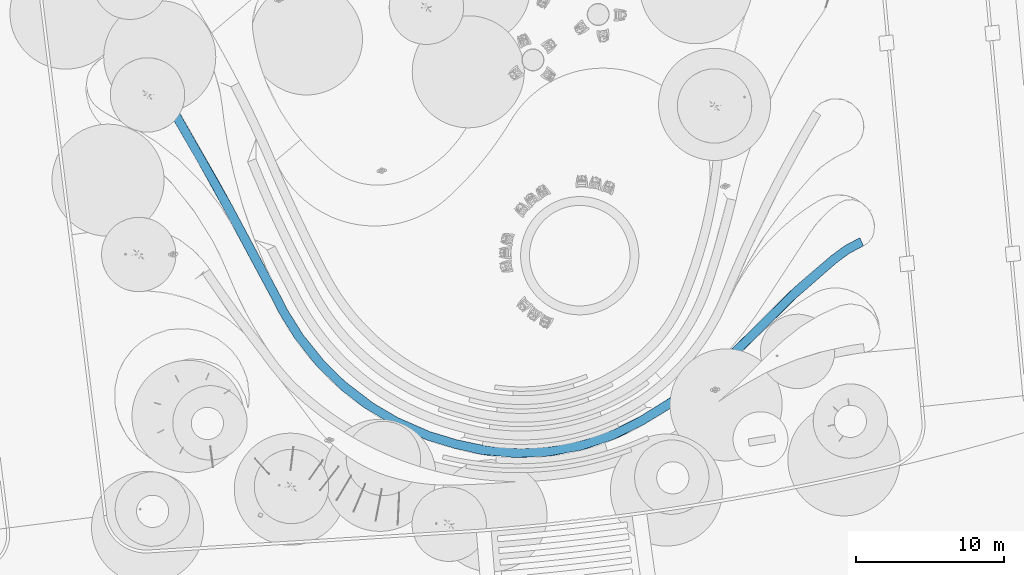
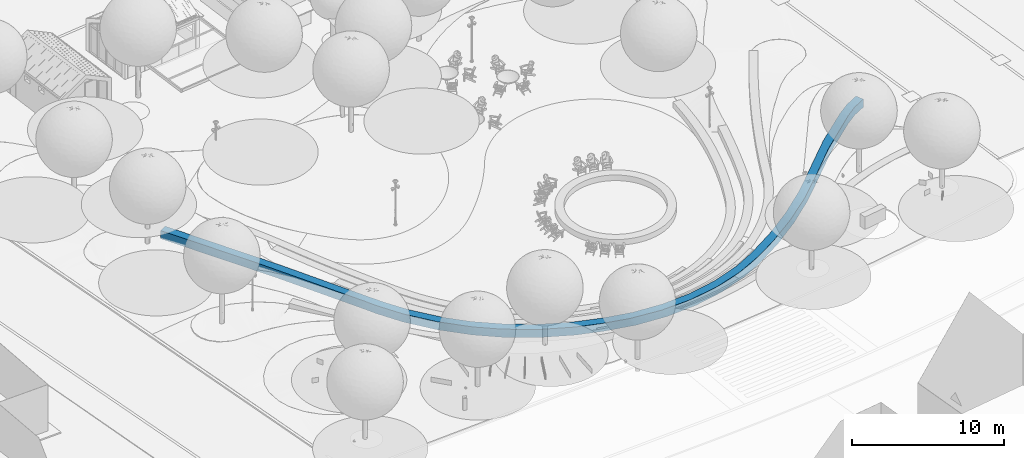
# One storey, part 43 of 75: 1 slab.
"""IFC2X3 building model written with IfcOpenShell, lengths in metres."""

from ifc_helpers import new_model, entity, si_unit, converted_unit, derived_unit, direction, origin, place, context, subcontext, project, spatial, faceted_brep, material, layer, layer_set, type_object, element, save


model = new_model("IFC2X3")

# Units and contexts
model_context = context("Model", 3, precision=1e-05, world=origin(), true_north=direction((6.123031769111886e-17, 1.0)))
body_context = subcontext(model_context, "Body", "Model", "MODEL_VIEW")
ifc_project = project(units=[si_unit("LENGTHUNIT", "METRE"), si_unit("AREAUNIT", "SQUARE_METRE"), si_unit("VOLUMEUNIT", "CUBIC_METRE"), converted_unit("PLANEANGLEUNIT", "DEGREE", entity("IfcRatioMeasure", 0.017453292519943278), si_unit("PLANEANGLEUNIT", "RADIAN"), dimensions=[0, 0, 0, 0, 0, 0, 0]), si_unit("MASSUNIT", "GRAM", prefix="KILO"), derived_unit("MASSDENSITYUNIT", [(si_unit("MASSUNIT", "GRAM", prefix="KILO"), 1), (si_unit("LENGTHUNIT", "METRE"), -3)]), derived_unit("IONCONCENTRATIONUNIT", [(si_unit("MASSUNIT", "GRAM", prefix="KILO"), 1), (si_unit("LENGTHUNIT", "METRE"), -3)]), derived_unit("MOMENTOFINERTIAUNIT", [(si_unit("LENGTHUNIT", "METRE"), 4)]), si_unit("TIMEUNIT", "SECOND"), si_unit("FREQUENCYUNIT", "HERTZ"), si_unit("THERMODYNAMICTEMPERATUREUNIT", "DEGREE_CELSIUS"), derived_unit("THERMALTRANSMITTANCEUNIT", [(si_unit("MASSUNIT", "GRAM", prefix="KILO"), 1), (si_unit("THERMODYNAMICTEMPERATUREUNIT", "KELVIN"), -1), (si_unit("TIMEUNIT", "SECOND"), -3)]), derived_unit("THERMALCONDUCTANCEUNIT", [(si_unit("MASSUNIT", "GRAM", prefix="KILO"), 1), (si_unit("THERMODYNAMICTEMPERATUREUNIT", "KELVIN"), -1), (si_unit("TIMEUNIT", "SECOND"), -3), (si_unit("LENGTHUNIT", "METRE"), 1)]), derived_unit("VOLUMETRICFLOWRATEUNIT", [(si_unit("LENGTHUNIT", "METRE"), 3), (si_unit("TIMEUNIT", "SECOND"), -1)]), derived_unit("MASSFLOWRATEUNIT", [(si_unit("MASSUNIT", "GRAM", prefix="KILO"), 1), (si_unit("TIMEUNIT", "SECOND"), -1)]), derived_unit("ROTATIONALFREQUENCYUNIT", [(si_unit("TIMEUNIT", "SECOND"), -1)]), si_unit("ELECTRICCURRENTUNIT", "AMPERE"), si_unit("ELECTRICVOLTAGEUNIT", "VOLT"), si_unit("POWERUNIT", "WATT"), si_unit("FORCEUNIT", "NEWTON", prefix="KILO"), si_unit("ILLUMINANCEUNIT", "LUX"), si_unit("LUMINOUSFLUXUNIT", "LUMEN"), si_unit("LUMINOUSINTENSITYUNIT", "CANDELA"), derived_unit("USERDEFINED", [(si_unit("MASSUNIT", "GRAM", prefix="KILO"), -1), (si_unit("LENGTHUNIT", "METRE"), -2), (si_unit("TIMEUNIT", "SECOND"), 3), (si_unit("LUMINOUSFLUXUNIT", "LUMEN"), 1)]), derived_unit("USERDEFINED", [(si_unit("MASSUNIT", "GRAM", prefix="KILO"), 1), (si_unit("TIMEUNIT", "SECOND"), -3), (si_unit("LENGTHUNIT", "METRE"), 3), (si_unit("ELECTRICCURRENTUNIT", "AMPERE"), -2)]), derived_unit("SOUNDPOWERUNIT", [(si_unit("MASSUNIT", "GRAM", prefix="KILO"), 1), (si_unit("TIMEUNIT", "SECOND"), -3), (si_unit("LENGTHUNIT", "METRE"), 2)]), derived_unit("SOUNDPRESSUREUNIT", [(si_unit("MASSUNIT", "GRAM", prefix="KILO"), 1), (si_unit("LENGTHUNIT", "METRE"), -1), (si_unit("TIMEUNIT", "SECOND"), -2)]), derived_unit("LINEARVELOCITYUNIT", [(si_unit("LENGTHUNIT", "METRE"), 1), (si_unit("TIMEUNIT", "SECOND"), -1)]), si_unit("PRESSUREUNIT", "PASCAL"), derived_unit("USERDEFINED", [(si_unit("MASSUNIT", "GRAM", prefix="KILO"), 1), (si_unit("LENGTHUNIT", "METRE"), -2), (si_unit("TIMEUNIT", "SECOND"), -2)]), derived_unit("LINEARFORCEUNIT", [(si_unit("MASSUNIT", "GRAM", prefix="KILO"), 1), (si_unit("TIMEUNIT", "SECOND"), -2)]), derived_unit("PLANARFORCEUNIT", [(si_unit("MASSUNIT", "GRAM", prefix="KILO"), 1), (si_unit("LENGTHUNIT", "METRE"), -1), (si_unit("TIMEUNIT", "SECOND"), -2)]), derived_unit("SPECIFICHEATCAPACITYUNIT", [(si_unit("THERMODYNAMICTEMPERATUREUNIT", "KELVIN"), -1), (si_unit("LENGTHUNIT", "METRE"), 2), (si_unit("TIMEUNIT", "SECOND"), -2)]), derived_unit("HEATINGVALUEUNIT", [(si_unit("LENGTHUNIT", "METRE"), 2), (si_unit("TIMEUNIT", "SECOND"), -2)]), derived_unit("VAPORPERMEABILITYUNIT", [(si_unit("LENGTHUNIT", "METRE"), -1), (si_unit("TIMEUNIT", "SECOND"), 1)]), derived_unit("DYNAMICVISCOSITYUNIT", [(si_unit("MASSUNIT", "GRAM", prefix="KILO"), 1), (si_unit("TIMEUNIT", "SECOND"), -1), (si_unit("LENGTHUNIT", "METRE"), -1)]), derived_unit("THERMALEXPANSIONCOEFFICIENTUNIT", [(si_unit("THERMODYNAMICTEMPERATUREUNIT", "KELVIN"), -1)]), derived_unit("MODULUSOFELASTICITYUNIT", [(si_unit("MASSUNIT", "GRAM", prefix="KILO"), 1), (si_unit("LENGTHUNIT", "METRE"), -1), (si_unit("TIMEUNIT", "SECOND"), -2)]), derived_unit("ISOTHERMALMOISTURECAPACITYUNIT", [(si_unit("LENGTHUNIT", "METRE"), 3), (si_unit("MASSUNIT", "GRAM", prefix="KILO"), -1)]), derived_unit("MOISTUREDIFFUSIVITYUNIT", [(si_unit("TIMEUNIT", "SECOND"), -1), (si_unit("LENGTHUNIT", "METRE"), 2)])], contexts=[model_context])

# Site, building, storey
site_placement = place(None, origin())
site = spatial("IfcSite", under=ifc_project, at=site_placement, Name="Default", CompositionType="ELEMENT")
building_placement = place(site_placement, origin())
building = spatial("IfcBuilding", under=site, at=building_placement, Name="Projeto", CompositionType="ELEMENT")
storey_placement = place(building_placement, origin())
storey = spatial("IfcBuildingStorey", under=building, at=storey_placement, Name="Nível 1", CompositionType="ELEMENT", Elevation=0.0)

# Slab
ifc_material = material(Name="cacao")
ifc_layer = layer(ifc_material, 0.65)
ifc_layer_set = layer_set([ifc_layer], Name="Piso:Banco de concreto")
slab_type = type_object("IfcSlabType", Name="Piso:Banco de concreto", PredefinedType="FLOOR", material=ifc_layer_set)
slab_placement = place(storey_placement, origin())
element("IfcSlab", 1, at=slab_placement, inside=storey, type_object=slab_type, material=ifc_material, Name="Piso:Banco de concreto", ObjectType="Piso:Banco de concreto", PredefinedType="FLOOR", context=body_context, shape_type="Brep", body=[
    faceted_brep([(-19.109149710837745, 10.474046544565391, -0.44999999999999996), (-17.376874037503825, 7.448494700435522, -1.1045364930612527), (-18.346484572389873, 9.141990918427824, -1.101997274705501), (-10.997355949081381, -4.275316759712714, -0.7402978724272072), (-13.161817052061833, -0.179499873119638, -0.46587772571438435), (-12.244038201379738, -1.9016146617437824, -0.4684169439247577), (-15.644598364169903, 4.422942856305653, -1.1090729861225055), (-16.955322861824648, 6.685612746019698, -0.4556706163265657), (-15.878413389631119, 4.791393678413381, -0.4585059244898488), (-11.522138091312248, -3.256178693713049, -1.120414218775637), (-12.552754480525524, -1.3363990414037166, -1.1175789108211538), (-13.583368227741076, 0.583382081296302, -1.1147436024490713), (-14.80149601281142, 2.897178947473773, -0.46134123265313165), (-13.98166048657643, 1.3588373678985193, -0.463609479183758), (-10.9973559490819, -4.275316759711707, -1.1), (-11.259239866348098, -3.765483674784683, -1.1102071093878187), (-18.032237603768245, 8.579828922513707, -0.4528353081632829), (-11.390688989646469, -3.5108311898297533, -1.1153106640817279), (-11.522138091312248, -3.256178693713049, -0.47041421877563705), (-11.259239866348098, -3.765483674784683, -0.4602071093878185), (-14.613987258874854, 2.503160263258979, -1.1119082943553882), (-16.51074016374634, 5.935716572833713, -1.106804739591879), (-11.093931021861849, -4.087305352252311, -0.45376408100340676), (-9.983372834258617, -5.891673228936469, -1.1), (-10.490364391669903, -5.083494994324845, -1.1), (-10.997355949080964, -4.275316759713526, -0.4499999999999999), (-10.490364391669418, -5.083494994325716, -0.4499999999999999), (-9.983372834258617, -5.891673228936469, -0.4499999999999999), (-9.233864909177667, -6.81885216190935, -1.1), (-9.233864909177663, -6.818852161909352, -0.4499999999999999), (-8.484356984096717, -7.7460310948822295, -0.4499999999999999), (-8.484356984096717, -7.7460310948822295, -1.1), (-7.1164049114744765, -9.07624803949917, -1.1), (-7.800380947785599, -8.411139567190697, -1.1), (-7.800380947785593, -8.411139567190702, -0.4499999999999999), (-7.1164049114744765, -9.07624803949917, -0.4499999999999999), (-6.168628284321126, -9.799533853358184, -0.4499999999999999), (-5.220851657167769, -10.522819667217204, -0.4499999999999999), (-5.220851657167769, -10.522819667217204, -1.1), (-6.168628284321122, -9.799533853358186, -1.1), (-3.5767708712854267, -11.491204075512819, -1.1), (-4.398811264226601, -11.00701187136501, -1.1), (-4.398811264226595, -11.007011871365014, -0.4499999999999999), (-3.5767708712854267, -11.491204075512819, -0.4499999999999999), (0.434114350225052, -12.999123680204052, -0.4499999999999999), (0.4341143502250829, -12.999123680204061, -1.1), (-0.4792140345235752, -12.723399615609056, -1.1), (-1.3925424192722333, -12.447675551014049, -1.1), (-1.3925424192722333, -12.447675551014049, -0.4499999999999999), (-0.6853862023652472, -12.661158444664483, -0.4499999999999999), (-2.4846566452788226, -11.969439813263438, -0.4499999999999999), (-2.4846566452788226, -11.969439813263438, -1.1), (3.234810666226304, -13.491109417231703, -1.1), (2.1445110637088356, -13.38456813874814, -1.1), (2.577944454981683, -13.451240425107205, -0.4499999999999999), (3.670769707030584, -13.527642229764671, -0.4499999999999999), (4.325110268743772, -13.597650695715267, -1.1), (4.763594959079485, -13.604044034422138, -0.4499999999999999), (1.289312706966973, -13.1918459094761, -1.1), (1.5060294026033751, -13.22518205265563, -0.4499999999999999), (11.736529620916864, -11.95558148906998, -1.1), (10.752386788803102, -12.436795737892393, -1.1), (11.156375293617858, -12.266199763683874, -0.4499999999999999), (5.4196984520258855, -13.553142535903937, -1.1), (5.856537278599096, -13.529335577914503, -0.4499999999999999), (6.949479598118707, -13.45462712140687, -0.4499999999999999), (6.514286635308, -13.50863437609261, -1.1), (10.125191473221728, -12.636016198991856, -0.4499999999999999), (9.711386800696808, -12.778004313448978, -1.1), (7.5923367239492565, -13.313923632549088, -1.1), (8.021743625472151, -13.230229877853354, -0.4499999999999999), (12.720672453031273, -11.474367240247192, -0.4499999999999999), (12.72067245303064, -11.47436724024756, -1.1), (11.938523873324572, -11.87028350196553, -0.4499999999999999), (8.670386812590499, -13.119212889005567, -1.1), (9.094007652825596, -13.005832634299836, -0.4499999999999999), (14.917537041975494, -10.11293250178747, -0.4499999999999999), (14.37815510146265, -10.468937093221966, -1.1), (13.819104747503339, -10.793649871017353, -0.4499999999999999), (13.407650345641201, -11.057645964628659, -1.1), (15.96091515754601, -9.350507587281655, -0.4499999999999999), (17.004293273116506, -8.588082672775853, -0.4499999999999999), (16.493601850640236, -8.984146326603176, -1.1), (15.435878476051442, -9.72654170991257, -1.1), (19.422430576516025, -6.448024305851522, -1.1), (19.661946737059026, -6.231114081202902, -0.4499999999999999), (20.35508237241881, -5.553546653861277, -1.1), (20.3550823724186, -5.553546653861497, -0.4499999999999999), (17.491690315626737, -8.163324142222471, -1.1), (18.96881110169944, -6.908681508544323, -0.4499999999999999), (17.986552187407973, -7.748382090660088, -0.4499999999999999), (18.489778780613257, -7.342501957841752, -1.1), (21.50613616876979, -4.396862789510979, -1.1), (21.805024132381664, -4.119113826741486, -0.4499999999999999), (22.657189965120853, -3.2401789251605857, -1.1), (23.254965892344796, -2.6846809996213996, -0.4499999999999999), (24.193937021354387, -1.899157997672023, -1.1), (24.218023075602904, -1.8574529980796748, -0.4499999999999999), (25.730684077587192, -0.5581370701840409, -0.4499999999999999), (25.730684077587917, -0.5581370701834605, -1.1), (26.19783779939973, -0.21414766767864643, -0.4499999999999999), (26.664991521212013, 0.12984173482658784, -0.4499999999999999), (26.664991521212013, 0.12984173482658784, -1.1), (26.197837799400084, -0.2141476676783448, -1.1), (27.00298769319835, 0.30950913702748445, -0.4499999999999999), (27.689517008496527, 0.6744450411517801, -0.4499999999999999), (27.689517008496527, 0.6744450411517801, -1.1), (27.17725426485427, 0.4021433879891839, -1.1), (26.98087351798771, -0.3802943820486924, -1.1), (27.271717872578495, -0.22558132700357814, -1.1000000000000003), (27.93171458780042, 0.1255002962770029, -1.1), (27.93171458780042, 0.125500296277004, -0.4499999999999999), (27.45629405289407, -0.12739704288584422, -0.4499999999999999), (26.98087351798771, -0.3802943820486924, -0.4499999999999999), (26.547532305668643, -0.6999772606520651, -1.1), (26.54753230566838, -0.6999772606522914, -0.4499999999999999), (26.114191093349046, -1.0196601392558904, -0.4499999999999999), (26.114191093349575, -1.0196601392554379, -1.1), (23.069963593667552, -3.675632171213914, -0.4499999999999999), (23.662018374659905, -3.1254941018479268, -1.1), (24.5920773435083, -2.347646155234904, -0.4499999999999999), (24.610102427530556, -2.3113150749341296, -1.1), (22.226036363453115, -4.5461744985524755, -1.1), (21.930008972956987, -4.821243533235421, -0.4499999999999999), (20.790054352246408, -5.966854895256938, -0.4499999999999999), (20.790054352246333, -5.966854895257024, -1.1), (20.0845410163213, -6.656709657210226, -1.1), (19.840742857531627, -6.87755321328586, -0.4499999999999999), (19.379027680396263, -7.346564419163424, -1.1), (17.875477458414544, -8.623955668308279, -0.4499999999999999), (18.379194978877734, -8.20149032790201, -1.1), (18.89143136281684, -7.788251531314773, -0.4499999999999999), (17.379362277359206, -9.056416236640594, -1.1), (14.706148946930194, -10.971358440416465, -0.4499999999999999), (14.137060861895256, -11.301950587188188, -1.1), (15.255206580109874, -10.60890376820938, -1.1), (13.018915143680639, -11.994997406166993, -1.1), (13.862532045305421, -11.483177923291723, -0.4499999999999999), (13.018915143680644, -11.99499740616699, -0.4499999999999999), (16.317284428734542, -9.832660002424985, -1.1), (15.782836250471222, -10.215509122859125, -0.4499999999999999), (16.859523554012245, -9.45965980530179, -0.4499999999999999), (12.208002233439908, -12.405397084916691, -1.1), (11.99858706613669, -12.493827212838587, -0.4499999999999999), (11.397089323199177, -12.81579676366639, -1.1), (9.25899389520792, -13.582706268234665, -1.1), (9.899042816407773, -13.346483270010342, -0.4499999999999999), (8.819826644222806, -13.700309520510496, -0.4499999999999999), (10.978258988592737, -12.992657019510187, -0.4499999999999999), (10.328041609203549, -13.199251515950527, -1.1), (7.0357692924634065, -14.048404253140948, -1.1), (7.702215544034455, -13.902413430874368, -0.4499999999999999), (6.584604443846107, -14.10451734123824, -0.4499999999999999), (8.14738159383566, -13.815555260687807, -1.1), (4.315036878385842, -14.197605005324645, -0.4499999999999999), (3.6366231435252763, -14.12536422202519, -1.1), (4.769632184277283, -14.204047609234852, -1.1), (1.3736670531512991, -13.824879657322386, -0.4499999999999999), (0.2807443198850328, -13.57929215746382, -0.4499999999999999), (0.2807443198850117, -13.579292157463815, -1.1), (1.3921792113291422, -13.812986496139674, -1.1), (2.0542206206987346, -13.977804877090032, -0.4499999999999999), (2.503614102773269, -14.046680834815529, -1.1), (5.449820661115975, -14.151061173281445, -0.4499999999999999), (5.902700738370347, -14.1262259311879, -1.1), (3.184628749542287, -14.087704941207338, -0.4499999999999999), (-0.6420972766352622, -13.301298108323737, -0.4499999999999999), (-1.564938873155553, -13.023304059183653, -0.4499999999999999), (-1.564938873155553, -13.023304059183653, -1.1), (-0.6420972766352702, -13.301298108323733, -1.1), (-5.8416752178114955, -10.827172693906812, -1.1), (-4.808189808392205, -11.445724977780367, -1.1), (-3.7747043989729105, -12.064277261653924, -1.1), (-3.7747043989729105, -12.064277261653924, -0.4499999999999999), (-4.8081898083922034, -11.445724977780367, -0.4499999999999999), (-5.8416752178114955, -10.827172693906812, -0.4499999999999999), (-2.6698216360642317, -12.54379066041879, -0.4499999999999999), (-2.6698216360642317, -12.54379066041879, -1.1), (-6.60531421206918, -10.239148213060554, -0.4499999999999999), (-7.368953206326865, -9.651123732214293, -0.4499999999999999), (-7.368953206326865, -9.651123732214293, -1.1), (-6.60531421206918, -10.239148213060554, -1.1), (-9.09317062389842, -7.968901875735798, -1.1), (-8.231061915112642, -8.810012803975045, -1.1), (-8.231061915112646, -8.810012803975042, -0.4499999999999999), (-9.09317062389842, -7.968901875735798, -0.4499999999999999), (-9.839101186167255, -7.02323458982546, -0.4499999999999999), (-10.585031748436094, -6.0775673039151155, -0.4499999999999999), (-10.585031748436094, -6.0775673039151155, -1.1), (-9.839101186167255, -7.02323458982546, -1.1), (-11.08961543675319, -5.256401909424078, -0.4499999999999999), (-11.594199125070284, -4.435236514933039, -0.44999999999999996), (-11.594199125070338, -4.435236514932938, -1.1), (-11.089615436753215, -5.256401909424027, -1.1), (-11.753281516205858, -4.136947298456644, -1.1), (-11.750551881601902, -4.135523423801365, -0.44999999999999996), (-12.05502017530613, -3.5319261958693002, -1.1), (-11.906905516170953, -3.8358105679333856, -0.44999999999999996), (-12.055020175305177, -3.5319261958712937, -0.44999999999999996), (-11.888111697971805, -3.8665971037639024, -1.1000000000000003), (-15.327545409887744, 2.6086100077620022, -1.1), (-14.111954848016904, 0.2996327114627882, -0.44999999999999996), (-15.140422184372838, 2.2154121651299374, -0.44999999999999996), (-16.168889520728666, 4.131191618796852, -0.44999999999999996), (-14.509414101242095, 1.073475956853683, -1.1), (-14.253140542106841, 0.5926066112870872, -1.1), (-13.691282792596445, -0.4616580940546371, -1.1), (-12.775415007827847, -2.1801839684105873, -1.1), (-13.083487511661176, -1.616146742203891, -0.4500000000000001), (-17.476866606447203, 6.38911821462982, -1.1), (-17.033214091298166, 5.640800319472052, -0.44999999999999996), (-17.897538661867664, 7.150409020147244, -0.4499999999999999), (-19.62618780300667, 10.16962642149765, -1.1), (-18.86511814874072, 8.84036029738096, -0.45), (-19.62618780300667, 10.16962642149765, -0.44999999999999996), (-18.551527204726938, 8.27937231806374, -1.1), (-16.402206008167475, 4.498864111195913, -1.1), (-11.570728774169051, -3.886061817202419, -0.45464424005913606), (-11.701300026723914, -3.3488886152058, -0.46355069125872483), (-11.198021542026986, -4.329083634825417, -0.44999999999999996), (-11.820408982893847, -3.4105232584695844, -0.4589877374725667), (-11.389652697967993, -4.106722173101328, -0.45281271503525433), (-19.336785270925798, 10.34001996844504, -0.44999999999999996), (-11.198022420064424, -4.329083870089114, -1.1), (-11.556564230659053, -3.900903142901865, -1.1045738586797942), (-19.3367852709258, 10.340019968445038, -1.1), (-11.705252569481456, -3.660525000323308, -1.106459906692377), (-11.875858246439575, -3.4392162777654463, -1.106863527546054), (-11.756749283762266, -3.3775816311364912, -1.11142648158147), (-19.109149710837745, 10.474046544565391, -1.1), (-15.512786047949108, 3.4881476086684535, -0.4544619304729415), (-18.122608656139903, 8.14461862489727, -0.4515202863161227), (-17.23461223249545, 6.58609655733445, -0.4525680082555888), (-16.34358999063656, 5.030354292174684, -0.45378336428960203), (-14.634534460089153, 1.9956237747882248, -0.45653006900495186), (-13.772147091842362, 0.4235561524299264, -0.45802316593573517), (-12.932565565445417, -1.1618856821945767, -0.4591676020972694), (-12.969312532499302, -1.181309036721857, -1.107979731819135), (-13.838361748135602, 0.45376893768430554, -1.1069003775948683), (-15.362854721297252, 3.334111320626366, -1.1055731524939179), (-16.319055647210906, 5.044104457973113, -1.1041554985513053), (-18.086607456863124, 8.165391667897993, -1.1017465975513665), (-14.64799251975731, 1.8895313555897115, -1.1052768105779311), (-17.191100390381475, 6.610841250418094, -1.1030354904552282)], [[[0, 1, 2]], [[3, 4, 5]], [[6, 7, 8]], [[4, 9, 10]], [[3, 9, 4]], [[11, 12, 13]], [[14, 15, 3]], [[1, 0, 16]], [[3, 15, 17]], [[18, 19, 3]], [[12, 11, 20]], [[7, 6, 21]], [[3, 19, 22]], [[23, 24, 14, 3, 25, 26, 27]], [[28, 23, 27, 29, 30, 31]], [[32, 33, 31, 30, 34, 35]], [[36, 37, 38, 39, 32, 35]], [[40, 41, 38, 37, 42, 43]], [[44, 45, 46, 47, 48, 49]], [[50, 48, 47, 51, 40, 43]], [[52, 53, 54]], [[52, 55, 56]], [[57, 56, 55]], [[53, 58, 59]], [[60, 61, 62]], [[58, 45, 44]], [[63, 57, 64]], [[54, 55, 52]], [[64, 65, 66]], [[67, 62, 61]], [[59, 54, 53]], [[63, 64, 66]], [[59, 58, 44]], [[63, 56, 57]], [[61, 68, 67]], [[69, 66, 65]], [[69, 65, 70]], [[71, 72, 73]], [[68, 74, 75]], [[60, 73, 72]], [[69, 70, 74]], [[60, 62, 73]], [[70, 75, 74]], [[67, 68, 75]], [[76, 77, 78]], [[79, 72, 71]], [[78, 79, 71]], [[80, 81, 82]], [[80, 82, 83]], [[80, 83, 76]], [[79, 78, 77]], [[84, 85, 86]], [[85, 87, 86]], [[83, 77, 76]], [[88, 82, 81]], [[85, 84, 89]], [[88, 90, 91]], [[91, 89, 84]], [[88, 81, 90]], [[90, 89, 91]], [[87, 92, 86]], [[93, 94, 92]], [[94, 93, 95]], [[95, 96, 94]], [[97, 98, 99]], [[96, 95, 97]], [[97, 99, 96]], [[87, 93, 92]], [[98, 100, 101, 102, 103, 99]], [[102, 101, 104, 105, 106, 107]], [[108, 109, 110, 111, 112, 113]], [[114, 108, 113, 115, 116, 117]], [[118, 119, 120]], [[121, 117, 116]], [[121, 116, 120]], [[121, 120, 119]], [[122, 118, 123]], [[123, 124, 125]], [[122, 123, 125]], [[122, 119, 118]], [[126, 125, 124]], [[127, 128, 126]], [[129, 130, 131]], [[130, 129, 132]], [[131, 128, 127]], [[133, 134, 135]], [[136, 137, 138]], [[139, 140, 135]], [[140, 139, 141]], [[134, 133, 137]], [[130, 128, 131]], [[126, 124, 127]], [[136, 134, 137]], [[140, 133, 135]], [[132, 141, 139]], [[141, 132, 129]], [[142, 136, 138]], [[143, 144, 142]], [[145, 146, 147]], [[138, 143, 142]], [[148, 149, 144]], [[143, 148, 144]], [[150, 151, 152]], [[149, 148, 146]], [[145, 149, 146]], [[153, 147, 151]], [[154, 155, 156]], [[157, 158, 159]], [[160, 161, 157]], [[161, 160, 162]], [[156, 163, 154]], [[164, 152, 163]], [[153, 145, 147]], [[165, 162, 155]], [[157, 159, 160]], [[151, 150, 153]], [[165, 161, 162]], [[163, 156, 164]], [[164, 150, 152]], [[155, 154, 165]], [[158, 166, 167, 168, 169, 159]], [[170, 171, 172, 173, 174, 175]], [[167, 176, 173, 172, 177, 168]], [[175, 178, 179, 180, 181, 170]], [[182, 183, 180, 179, 184, 185]], [[185, 186, 187, 188, 189, 182]], [[190, 191, 192, 193, 188, 187]], [[194, 191, 195]], [[196, 197, 198]], [[194, 192, 191]], [[197, 196, 199, 194]], [[200, 201, 202, 203]], [[201, 200, 204, 205, 206, 207, 196]], [[196, 198, 208, 201]], [[209, 203, 210, 211]], [[212, 211, 213, 214]], [[211, 212, 215, 209]], [[203, 209, 216, 200]], [[217, 197, 195]], [[218, 19, 18]], [[219, 25, 22]], [[197, 218, 220, 198]], [[218, 197, 217]], [[19, 217, 221]], [[218, 217, 19]], [[219, 221, 191]], [[22, 221, 219]], [[221, 22, 19]], [[217, 195, 221]], [[191, 221, 195]], [[44, 49, 48, 50, 43, 42, 37, 36, 35, 34, 30, 29, 27, 26, 25, 219, 191, 190, 187, 186, 185, 184, 179, 178, 175, 174, 173, 176, 167, 166, 158, 157, 161, 165, 154, 163, 152, 151, 147, 146, 148, 143, 138, 137, 133, 140, 141, 129, 131, 127, 124, 123, 118, 120, 116, 115, 113, 112, 111, 105, 104, 101, 100, 98, 97, 95, 93, 87, 85, 89, 90, 81, 80, 76, 78, 71, 73, 62, 67, 75, 70, 65, 64, 57, 55, 54, 59]], [[222, 214, 213]], [[15, 14, 223]], [[15, 223, 224]], [[223, 14, 24, 23, 28, 31, 33, 32, 39, 38, 41, 40, 51, 47, 46, 45, 58, 53, 52, 56, 63, 66, 69, 74, 68, 61, 60, 72, 79, 77, 83, 82, 88, 91, 84, 86, 92, 94, 96, 99, 103, 102, 107, 106, 110, 109, 108, 114, 117, 121, 119, 122, 125, 126, 128, 130, 132, 139, 135, 134, 136, 142, 144, 149, 145, 153, 150, 164, 156, 155, 162, 160, 159, 169, 168, 177, 172, 171, 170, 181, 180, 183, 182, 189, 188, 193, 192, 194]], [[225, 215, 212]], [[226, 199, 196]], [[199, 224, 194]], [[226, 196, 227, 228]], [[199, 226, 224]], [[17, 15, 224]], [[194, 224, 223]], [[226, 17, 224]], [[17, 226, 9]], [[214, 222, 0, 229, 225, 212]], [[208, 198, 220]], [[12, 8, 230]], [[231, 232, 7]], [[231, 222, 213]], [[231, 213, 211]], [[230, 8, 233]], [[5, 220, 218]], [[13, 234, 235]], [[235, 201, 236]], [[202, 234, 230]], [[12, 234, 13]], [[201, 234, 202]], [[230, 233, 203]], [[210, 233, 232]], [[203, 233, 210]], [[7, 233, 8]], [[202, 230, 203]], [[12, 230, 234]], [[236, 4, 235]], [[236, 201, 208]], [[4, 236, 5]], [[5, 236, 220]], [[220, 236, 208]], [[13, 235, 4]], [[201, 235, 234]], [[231, 211, 232]], [[16, 0, 222]], [[7, 16, 231]], [[222, 231, 16]], [[210, 232, 211]], [[7, 232, 233]], [[237, 206, 238]], [[206, 237, 207]], [[239, 240, 6]], [[216, 209, 240]], [[2, 241, 225]], [[207, 228, 227, 196]], [[9, 228, 10]], [[216, 239, 200]], [[10, 228, 237]], [[11, 237, 238]], [[207, 237, 228]], [[10, 237, 11]], [[239, 6, 20]], [[238, 204, 242]], [[242, 20, 11]], [[242, 239, 20]], [[238, 206, 205, 204]], [[242, 204, 200]], [[209, 243, 240]], [[6, 240, 21]], [[243, 1, 21]], [[241, 1, 243]], [[216, 240, 239]], [[11, 238, 242]], [[239, 242, 200]], [[241, 2, 1]], [[241, 215, 225]], [[225, 229, 2]], [[215, 241, 209]], [[241, 243, 209]], [[240, 243, 21]], [[110, 106, 105, 111]], [[0, 2, 229]], [[3, 5, 18]], [[6, 8, 12]], [[4, 10, 11]], [[11, 13, 4]], [[1, 16, 7]], [[3, 17, 9]], [[12, 20, 6]], [[7, 21, 1]], [[3, 22, 25]], [[194, 195, 197]], [[226, 228, 9]], [[5, 218, 18]]]),
])

save(model, "model.ifc")
